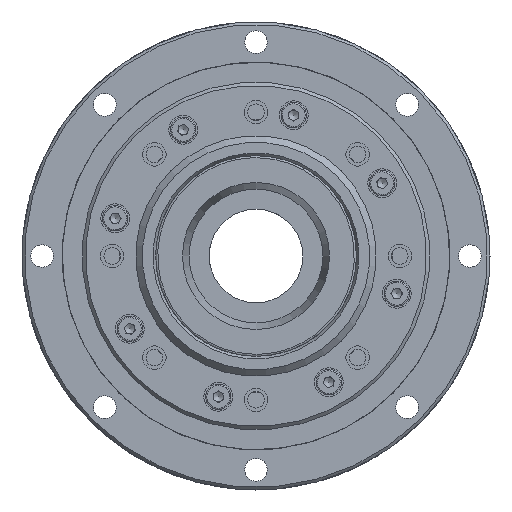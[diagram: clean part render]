
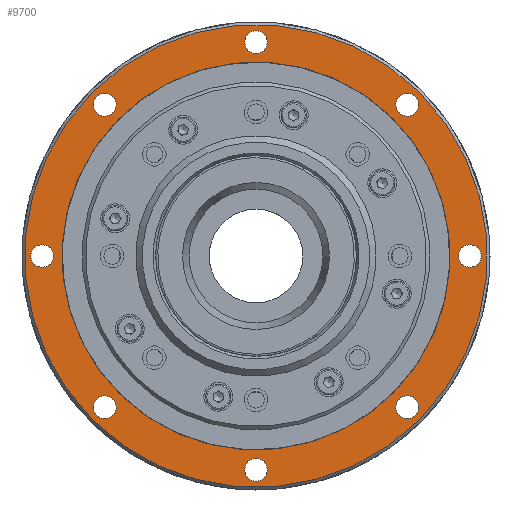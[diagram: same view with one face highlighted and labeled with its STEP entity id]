
A CAD part, left-side view. The second image highlights one B-rep face of the part: STEP entity #9700.
In plain terms, the highlighted planar face has unit normal (-1, 0, 0).
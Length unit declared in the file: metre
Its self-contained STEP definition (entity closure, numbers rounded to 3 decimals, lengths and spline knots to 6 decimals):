
#380 = DIRECTION ( 'NONE',  ( -1., 0., 0. ) ) ;
#697 = CIRCLE ( 'NONE', #33311, 0.0017 ) ;
#890 = EDGE_CURVE ( 'NONE', #25323, #25323, #2429, .T. ) ;
#1589 = CARTESIAN_POINT ( 'NONE',  ( -0.00535, -0.021425, 0.021425 ) ) ;
#2118 = VERTEX_POINT ( 'NONE', #41261 ) ;
#2429 = CIRCLE ( 'NONE', #21469, 0.0017 ) ;
#2505 = DIRECTION ( 'NONE',  ( 0., 0.707, -0.707 ) ) ;
#2627 = ORIENTED_EDGE ( 'NONE', *, *, #9013, .F. ) ;
#2641 = CARTESIAN_POINT ( 'NONE',  ( -0.00535, -0.022627, -0.022627 ) ) ;
#2687 = DIRECTION ( 'NONE',  ( -1., 0., 0. ) ) ;
#4129 = CARTESIAN_POINT ( 'NONE',  ( -0.00535, 0., 0.032 ) ) ;
#4290 = AXIS2_PLACEMENT_3D ( 'NONE', #18314, #18940, #28308 ) ;
#4409 = DIRECTION ( 'NONE',  ( 0., 0.707, -0.707 ) ) ;
#5067 = EDGE_LOOP ( 'NONE', ( #23392 ) ) ;
#5583 = ORIENTED_EDGE ( 'NONE', *, *, #19729, .F. ) ;
#5763 = CARTESIAN_POINT ( 'NONE',  ( -0.00535, 0.023829, -0.023829 ) ) ;
#5824 = ORIENTED_EDGE ( 'NONE', *, *, #8364, .F. ) ;
#5882 = EDGE_LOOP ( 'NONE', ( #29899 ) ) ;
#6079 = DIRECTION ( 'NONE',  ( 0., 0.707, -0.707 ) ) ;
#6794 = DIRECTION ( 'NONE',  ( 0., 0.707, -0.707 ) ) ;
#7425 = AXIS2_PLACEMENT_3D ( 'NONE', #19782, #23178, #29142 ) ;
#7926 = CIRCLE ( 'NONE', #8595, 0.0017 ) ;
#8099 = AXIS2_PLACEMENT_3D ( 'NONE', #2641, #31589, #31165 ) ;
#8364 = EDGE_CURVE ( 'NONE', #19047, #19047, #27657, .T. ) ;
#8595 = AXIS2_PLACEMENT_3D ( 'NONE', #36738, #23333, #4409 ) ;
#9013 = EDGE_CURVE ( 'NONE', #33078, #33078, #26234, .T. ) ;
#9225 = CIRCLE ( 'NONE', #33679, 0.0017 ) ;
#9700 = ADVANCED_FACE ( 'NONE', ( #35739, #35537, #19365, #22965, #38950, #39574, #16157, #13608, #19571, #16581 ), #19990, .F. ) ;
#11357 = ORIENTED_EDGE ( 'NONE', *, *, #890, .F. ) ;
#12619 = EDGE_CURVE ( 'NONE', #33925, #33925, #697, .T. ) ;
#13293 = DIRECTION ( 'NONE',  ( 0., 0.707, -0.707 ) ) ;
#13567 = EDGE_LOOP ( 'NONE', ( #5583 ) ) ;
#13608 = FACE_BOUND ( 'NONE', #23581, .T. ) ;
#14168 = ORIENTED_EDGE ( 'NONE', *, *, #35909, .F. ) ;
#14502 = CARTESIAN_POINT ( 'NONE',  ( -0.00535, 0.001202, -0.033202 ) ) ;
#14595 = DIRECTION ( 'NONE',  ( 0., 0.707, -0.707 ) ) ;
#15100 = EDGE_LOOP ( 'NONE', ( #5824 ) ) ;
#15234 = EDGE_CURVE ( 'NONE', #24962, #24962, #38113, .T. ) ;
#15808 = EDGE_CURVE ( 'NONE', #28573, #28573, #9225, .T. ) ;
#15842 = CIRCLE ( 'NONE', #4290, 0.029 ) ;
#16157 = FACE_BOUND ( 'NONE', #5882, .T. ) ;
#16581 = FACE_BOUND ( 'NONE', #39198, .T. ) ;
#18155 = DIRECTION ( 'NONE',  ( 0., -0.707, 0.707 ) ) ;
#18294 = EDGE_LOOP ( 'NONE', ( #14168 ) ) ;
#18314 = CARTESIAN_POINT ( 'NONE',  ( -0.00535, 0., 0. ) ) ;
#18489 = ORIENTED_EDGE ( 'NONE', *, *, #30819, .F. ) ;
#18940 = DIRECTION ( 'NONE',  ( -1., 0., 0. ) ) ;
#19047 = VERTEX_POINT ( 'NONE', #32040 ) ;
#19074 = EDGE_LOOP ( 'NONE', ( #24103 ) ) ;
#19365 = FACE_BOUND ( 'NONE', #18294, .T. ) ;
#19571 = FACE_BOUND ( 'NONE', #13567, .T. ) ;
#19664 = DIRECTION ( 'NONE',  ( -1., 0., 0. ) ) ;
#19729 = EDGE_CURVE ( 'NONE', #20694, #20694, #7926, .T. ) ;
#19782 = CARTESIAN_POINT ( 'NONE',  ( -0.00535, -0.020506, -0.020506 ) ) ;
#19990 = PLANE ( 'NONE',  #7425 ) ;
#20694 = VERTEX_POINT ( 'NONE', #14502 ) ;
#21469 = AXIS2_PLACEMENT_3D ( 'NONE', #22271, #38027, #2505 ) ;
#21490 = AXIS2_PLACEMENT_3D ( 'NONE', #4129, #19664, #13293 ) ;
#21567 = CARTESIAN_POINT ( 'NONE',  ( -0.00535, 0.023829, 0.021425 ) ) ;
#22271 = CARTESIAN_POINT ( 'NONE',  ( -0.00535, 0.022627, -0.022627 ) ) ;
#22965 = FACE_BOUND ( 'NONE', #19074, .T. ) ;
#23178 = DIRECTION ( 'NONE',  ( 1., 0., 0. ) ) ;
#23333 = DIRECTION ( 'NONE',  ( -1., 0., 0. ) ) ;
#23357 = EDGE_CURVE ( 'NONE', #28738, #28738, #15842, .T. ) ;
#23392 = ORIENTED_EDGE ( 'NONE', *, *, #23357, .F. ) ;
#23581 = EDGE_LOOP ( 'NONE', ( #11357 ) ) ;
#24103 = ORIENTED_EDGE ( 'NONE', *, *, #12619, .F. ) ;
#24962 = VERTEX_POINT ( 'NONE', #40947 ) ;
#25234 = CARTESIAN_POINT ( 'NONE',  ( -0.00535, -0.022627, 0.022627 ) ) ;
#25315 = DIRECTION ( 'NONE',  ( -1., 0., 0. ) ) ;
#25323 = VERTEX_POINT ( 'NONE', #5763 ) ;
#25528 = ORIENTED_EDGE ( 'NONE', *, *, #15808, .F. ) ;
#26234 = CIRCLE ( 'NONE', #21490, 0.0017 ) ;
#26548 = AXIS2_PLACEMENT_3D ( 'NONE', #39539, #380, #26746 ) ;
#26746 = DIRECTION ( 'NONE',  ( 0., 0.707, -0.707 ) ) ;
#27361 = CARTESIAN_POINT ( 'NONE',  ( -0.00535, 0.022627, 0.022627 ) ) ;
#27657 = CIRCLE ( 'NONE', #30393, 0.0346 ) ;
#28308 = DIRECTION ( 'NONE',  ( 0., -0.707, 0.707 ) ) ;
#28573 = VERTEX_POINT ( 'NONE', #21567 ) ;
#28738 = VERTEX_POINT ( 'NONE', #38104 ) ;
#29142 = DIRECTION ( 'NONE',  ( 0., -0.707, 0.707 ) ) ;
#29360 = CARTESIAN_POINT ( 'NONE',  ( -0.00535, 0.032, 0. ) ) ;
#29729 = VERTEX_POINT ( 'NONE', #33131 ) ;
#29899 = ORIENTED_EDGE ( 'NONE', *, *, #15234, .F. ) ;
#30393 = AXIS2_PLACEMENT_3D ( 'NONE', #31553, #35365, #18155 ) ;
#30819 = EDGE_CURVE ( 'NONE', #2118, #2118, #39384, .T. ) ;
#30896 = EDGE_LOOP ( 'NONE', ( #25528 ) ) ;
#30985 = DIRECTION ( 'NONE',  ( -1., 0., 0. ) ) ;
#31165 = DIRECTION ( 'NONE',  ( 0., 0.707, -0.707 ) ) ;
#31553 = CARTESIAN_POINT ( 'NONE',  ( -0.00535, 0., 0. ) ) ;
#31589 = DIRECTION ( 'NONE',  ( -1., 0., 0. ) ) ;
#32016 = AXIS2_PLACEMENT_3D ( 'NONE', #29360, #25315, #6794 ) ;
#32040 = CARTESIAN_POINT ( 'NONE',  ( -0.00535, -0.024466, 0.024466 ) ) ;
#32863 = CARTESIAN_POINT ( 'NONE',  ( -0.00535, 0.001202, 0.030798 ) ) ;
#33078 = VERTEX_POINT ( 'NONE', #32863 ) ;
#33131 = CARTESIAN_POINT ( 'NONE',  ( -0.00535, -0.030798, -0.001202 ) ) ;
#33311 = AXIS2_PLACEMENT_3D ( 'NONE', #25234, #2687, #6079 ) ;
#33679 = AXIS2_PLACEMENT_3D ( 'NONE', #27361, #30985, #14595 ) ;
#33925 = VERTEX_POINT ( 'NONE', #1589 ) ;
#35365 = DIRECTION ( 'NONE',  ( 1., 0., 0. ) ) ;
#35537 = FACE_OUTER_BOUND ( 'NONE', #15100, .T. ) ;
#35552 = EDGE_LOOP ( 'NONE', ( #2627 ) ) ;
#35739 = FACE_BOUND ( 'NONE', #5067, .T. ) ;
#35909 = EDGE_CURVE ( 'NONE', #29729, #29729, #36090, .T. ) ;
#36090 = CIRCLE ( 'NONE', #26548, 0.0017 ) ;
#36738 = CARTESIAN_POINT ( 'NONE',  ( -0.00535, 0., -0.032 ) ) ;
#38027 = DIRECTION ( 'NONE',  ( -1., 0., 0. ) ) ;
#38104 = CARTESIAN_POINT ( 'NONE',  ( -0.00535, -0.020506, 0.020506 ) ) ;
#38113 = CIRCLE ( 'NONE', #32016, 0.0017 ) ;
#38950 = FACE_BOUND ( 'NONE', #35552, .T. ) ;
#39198 = EDGE_LOOP ( 'NONE', ( #18489 ) ) ;
#39384 = CIRCLE ( 'NONE', #8099, 0.0017 ) ;
#39539 = CARTESIAN_POINT ( 'NONE',  ( -0.00535, -0.032, 0. ) ) ;
#39574 = FACE_BOUND ( 'NONE', #30896, .T. ) ;
#40947 = CARTESIAN_POINT ( 'NONE',  ( -0.00535, 0.033202, -0.001202 ) ) ;
#41261 = CARTESIAN_POINT ( 'NONE',  ( -0.00535, -0.021425, -0.023829 ) ) ;
